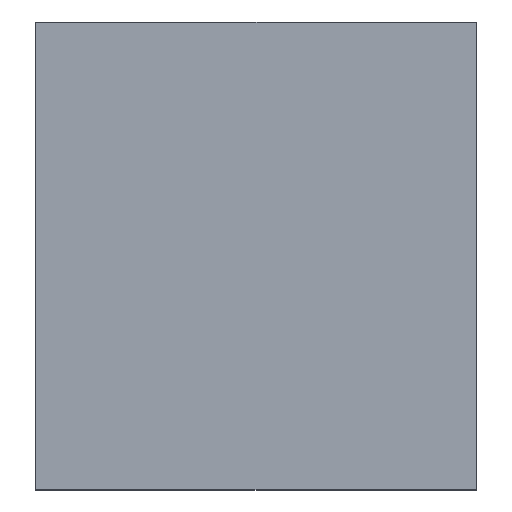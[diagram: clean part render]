
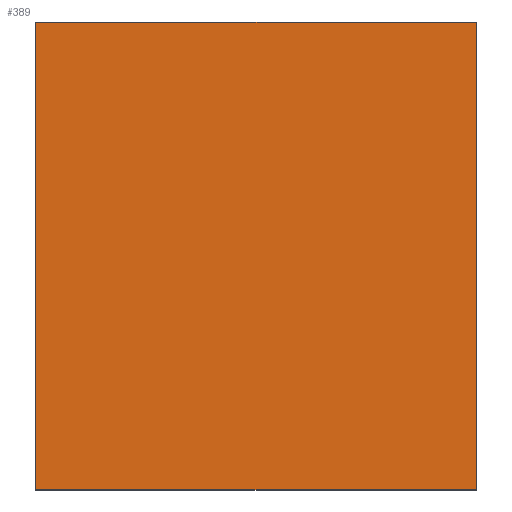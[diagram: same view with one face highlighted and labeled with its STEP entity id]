
A CAD part, top view. The second image highlights one B-rep face of the part: STEP entity #389.
In plain terms, the highlighted planar face has unit normal (0, 0, 1).
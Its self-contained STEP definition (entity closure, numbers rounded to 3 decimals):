
#20 = CARTESIAN_POINT ( 'NONE',  ( 66., 0., 19. ) ) ;
#122 = EDGE_CURVE ( 'NONE', #1359, #720, #422, .T. ) ;
#135 = ORIENTED_EDGE ( 'NONE', *, *, #374, .T. ) ;
#159 = VECTOR ( 'NONE', #1352, 1000. ) ;
#204 = CARTESIAN_POINT ( 'NONE',  ( 66., 70., 19. ) ) ;
#247 = FACE_OUTER_BOUND ( 'NONE', #849, .T. ) ;
#282 = LINE ( 'NONE', #873, #898 ) ;
#366 = PLANE ( 'NONE',  #1393 ) ;
#374 = EDGE_CURVE ( 'NONE', #761, #1359, #1280, .T. ) ;
#389 = ADVANCED_FACE ( 'NONE', ( #247 ), #366, .F. ) ;
#422 = LINE ( 'NONE', #926, #1479 ) ;
#498 = EDGE_CURVE ( 'NONE', #720, #1266, #282, .T. ) ;
#614 = DIRECTION ( 'NONE',  ( -1., 0., 0. ) ) ;
#689 = ORIENTED_EDGE ( 'NONE', *, *, #498, .T. ) ;
#699 = DIRECTION ( 'NONE',  ( -1., 0., 0. ) ) ;
#704 = VECTOR ( 'NONE', #947, 1000. ) ;
#720 = VERTEX_POINT ( 'NONE', #827 ) ;
#728 = CARTESIAN_POINT ( 'NONE',  ( 66., 0., 19. ) ) ;
#761 = VERTEX_POINT ( 'NONE', #728 ) ;
#762 = CARTESIAN_POINT ( 'NONE',  ( 0., 0., 19. ) ) ;
#827 = CARTESIAN_POINT ( 'NONE',  ( 0., 70., 19. ) ) ;
#835 = CARTESIAN_POINT ( 'NONE',  ( 0., 0., 19. ) ) ;
#849 = EDGE_LOOP ( 'NONE', ( #689, #1020, #135, #997 ) ) ;
#873 = CARTESIAN_POINT ( 'NONE',  ( 0., 0., 19. ) ) ;
#897 = DIRECTION ( 'NONE',  ( 0., -1., 0. ) ) ;
#898 = VECTOR ( 'NONE', #897, 1000. ) ;
#926 = CARTESIAN_POINT ( 'NONE',  ( 0., 70., 19. ) ) ;
#947 = DIRECTION ( 'NONE',  ( 0., 1., 0. ) ) ;
#997 = ORIENTED_EDGE ( 'NONE', *, *, #122, .T. ) ;
#1020 = ORIENTED_EDGE ( 'NONE', *, *, #1282, .T. ) ;
#1215 = CARTESIAN_POINT ( 'NONE',  ( 0., 0., 19. ) ) ;
#1237 = LINE ( 'NONE', #1215, #159 ) ;
#1266 = VERTEX_POINT ( 'NONE', #762 ) ;
#1280 = LINE ( 'NONE', #20, #704 ) ;
#1282 = EDGE_CURVE ( 'NONE', #1266, #761, #1237, .T. ) ;
#1301 = DIRECTION ( 'NONE',  ( 0., 0., -1. ) ) ;
#1352 = DIRECTION ( 'NONE',  ( 1., 0., 0. ) ) ;
#1359 = VERTEX_POINT ( 'NONE', #204 ) ;
#1393 = AXIS2_PLACEMENT_3D ( 'NONE', #835, #1301, #614 ) ;
#1479 = VECTOR ( 'NONE', #699, 1000. ) ;
